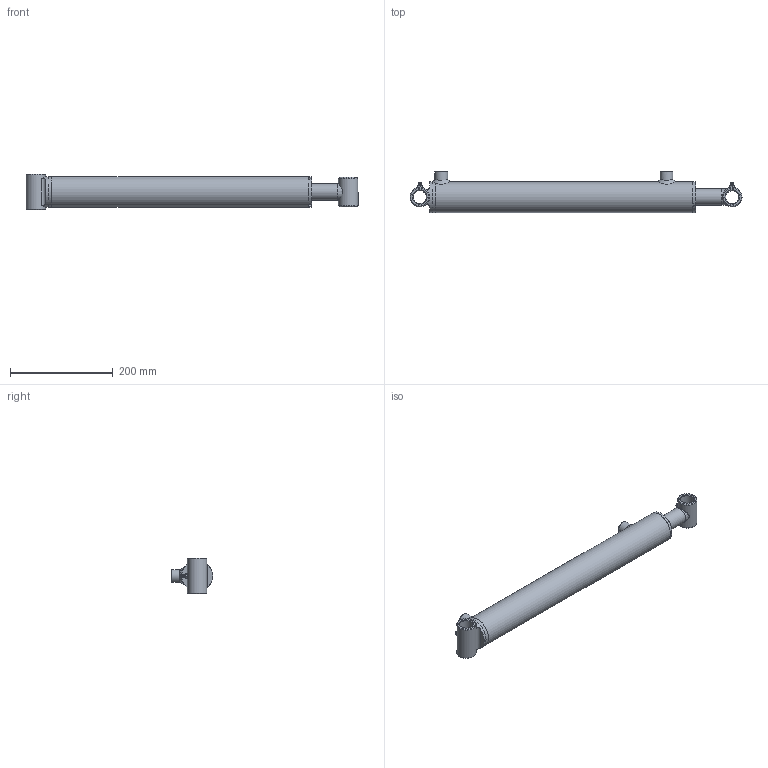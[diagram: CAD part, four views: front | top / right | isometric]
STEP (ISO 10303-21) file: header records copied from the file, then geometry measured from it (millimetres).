
FILE_DESCRIPTION(/* description */ (''),/* implementation_level */ '2;1');
FILE_NAME(/* name */ 'C:\01 - Philip\00 - Philip Rivard\01 - Contracts\Eagle Hydraulic Components\00 - 3D Cylinder\01 - Standard\HBU\HBU20XX\STEP\HBU2016.stp',/* time_stamp */ '2015-05-19T20:02:35-04:00',/* author */ ('Philip'),/* organization */ (''),/* preprocessor_version */ 'ST-DEVELOPER v16.1',/* originating_system */ 'Autodesk Inventor 2016',/* authorisation */ '');
FILE_SCHEMA (('AUTOMOTIVE_DESIGN { 1 0 10303 214 3 1 1 }'));
Length unit declared in the file: inch
Products named in the file (12): Tube_Welding_Welds; ECP-20-HBU; Tube; Straight_Port; Gland; Grease Fitting 1-8; Tube_Welding; Rod_Welding_Welds; Rod; Bushing; Rod_Welding; Cylinder_Assembly
Assembly tree (13 placements, depth 3):
  Cylinder_Assembly
    Tube_Welding
      Tube_Welding_Welds
      ECP-20-HBU
      Tube
      Straight_Port  x2
      Gland
      Grease Fitting 1-8
    Rod_Welding
      Rod_Welding_Welds
      Rod
      Bushing
      Grease Fitting 1-8
Bounding box: 647.7 x 80.33 x 69.8 mm (x, y, z)
Volume: 1022248.4 mm3; surface area: 298060.6 mm2
Topology: 12 solids, 12 shells, 197 faces, 428 edges, 259 vertices
Faces by surface type: cone 65, plane 55, cylinder 50, torus 15, bspline 10, sphere 2
Full cylindrical faces by diameter (mm): 4 x2, 5 x1, 7.5 x2, 8 x2, 10 x2, 12.751 x2, 22 x1, 25 x4, 25.4 x2, 25.65 x2, 26 x1, 26.25 x1, 31.75 x2, 38.1 x2, 43 x1, 44.45 x1, 50.546 x1, 50.75 x1, 50.8 x1, 51 x1, 55 x4, 60.3 x1, 60.325 x1
Entity records: 6120 total; most frequent: CARTESIAN_POINT 2930, DIRECTION 631, ORIENTED_EDGE 486, AXIS2_PLACEMENT_3D 293, EDGE_LOOP 270, EDGE_CURVE 243, VERTEX_POINT 191, ADVANCED_FACE 157
